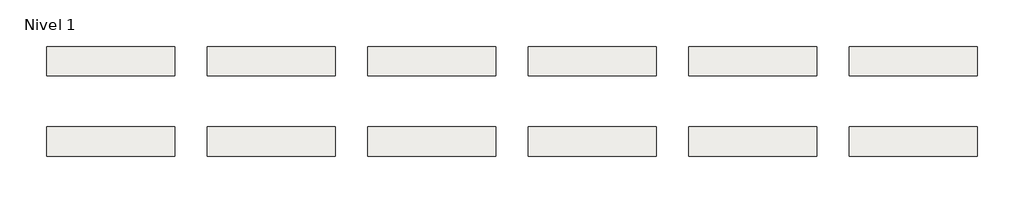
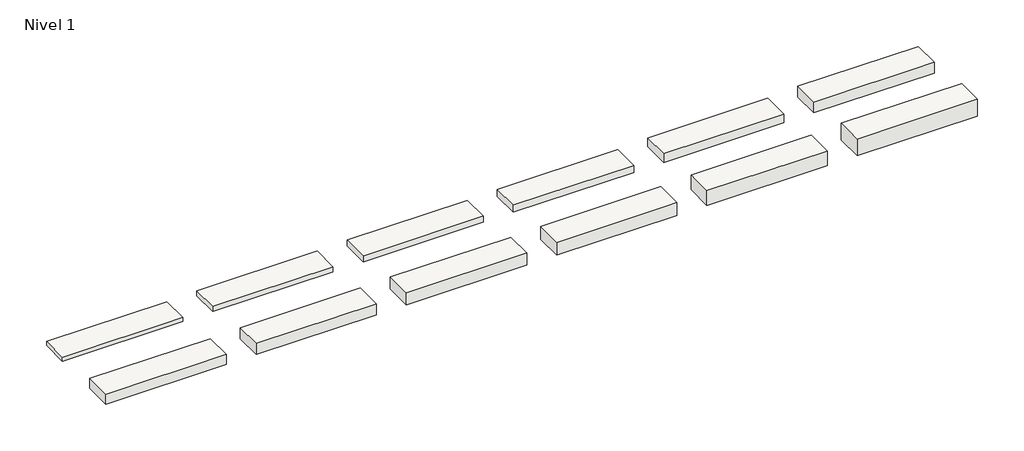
# One storey: 12 roofs.
"""IFC4 building model written with IfcOpenShell, lengths in millimetres."""

import ifcopenshell
import ifcopenshell.guid

model = None  # the IFC model being written
_history = None  # IfcOwnerHistory: only IFC2X3 demands one
_inside = {}  # id of a spatial element -> (the spatial element, [elements in it])
_under = {}  # id of a project, library or spatial element -> (it, [spatial elements below it])
_declared = {}  # id of a project -> (the project, [libraries it declares])
_typed = {}  # id of a type object -> (the type object, [elements of that type])
_made_of = {}  # id of a material, layer set ... -> (it, [elements and type objects made of it])


def new_model(schema):
    """Start an empty IFC model of exactly this schema.

    Asked for "IFC4X3", IfcOpenShell would pick the latest addendum, in which some entities
    have other attributes; the version numbers below select the first issue.
    IFC2X3 requires an IfcOwnerHistory on every rooted entity: one is made here for all.
    """
    global model, _history
    if schema == "IFC4X3":
        model = ifcopenshell.file(schema_version=(4, 3, 0, 0))
    else:
        model = ifcopenshell.file(schema=schema)
    _inside.clear()
    _under.clear()
    _declared.clear()
    _typed.clear()
    _made_of.clear()
    _history = None
    if model.schema == "IFC2X3":
        org = make("IfcOrganization", Name="unknown")
        user = make(
            "IfcPersonAndOrganization",
            ThePerson=make("IfcPerson", FamilyName="unknown"),
            TheOrganization=org,
        )
        app = make(
            "IfcApplication",
            ApplicationDeveloper=org,
            Version="unknown",
            ApplicationFullName="unknown",
            ApplicationIdentifier="unknown",
        )
        _history = make(
            "IfcOwnerHistory",
            OwningUser=user,
            OwningApplication=app,
            ChangeAction="ADDED",
            CreationDate=0,
        )
    return model


def make(cls, **values):
    """One entity of the class cls with the attributes given. An attribute that is None is left unset."""
    return model.create_entity(
        cls, **{name: value for name, value in values.items() if value is not None}
    )


def rooted(cls, **values):
    """An entity with a GlobalId (a new one), such as an element, a storey or a relation."""
    return make(cls, GlobalId=ifcopenshell.guid.new(), OwnerHistory=_history, **values)


def si_unit(unit_type, name, prefix=None):
    """IfcSIUnit, for example si_unit("LENGTHUNIT", "METRE", prefix="MILLI")."""
    return make("IfcSIUnit", UnitType=unit_type, Prefix=prefix, Name=name)


def assignment(units):
    """IfcUnitAssignment: the units of a project."""
    return None if units is None else make("IfcUnitAssignment", Units=units)


def point(xyz):
    """IfcCartesianPoint."""
    return None if xyz is None else make("IfcCartesianPoint", Coordinates=xyz)


def direction(xyz):
    """IfcDirection."""
    return None if xyz is None else make("IfcDirection", DirectionRatios=xyz)


def frame(location, z_axis=None, x_axis=None):
    """IfcAxis2Placement3D, a coordinate frame: its origin and axes. An axis left out is left unset."""
    return make(
        "IfcAxis2Placement3D",
        Location=point(location),
        Axis=direction(z_axis),
        RefDirection=direction(x_axis),
    )


def origin():
    """The frame at (0, 0, 0) with its axes left unset."""
    return frame((0.0, 0.0, 0.0))


def origin_with_axes():
    """The frame at (0, 0, 0) with the z axis (0, 0, 1) and the x axis (1, 0, 0) written out."""
    return frame((0.0, 0.0, 0.0), z_axis=(0.0, 0.0, 1.0), x_axis=(1.0, 0.0, 0.0))


def place(relative_to, where):
    """IfcLocalPlacement: puts the frame where relative to a parent placement (None: the world)."""
    return make(
        "IfcLocalPlacement", PlacementRelTo=relative_to, RelativePlacement=where
    )


def context(
    kind, dimensions, precision=None, world=None, true_north=None, identifier=None
):
    """IfcGeometricRepresentationContext, for example the 3D "Model" context."""
    return make(
        "IfcGeometricRepresentationContext",
        ContextIdentifier=identifier,
        ContextType=kind,
        CoordinateSpaceDimension=dimensions,
        Precision=precision,
        WorldCoordinateSystem=world,
        TrueNorth=true_north,
    )


def project(units=None, contexts=None):
    """IfcProject with its units and contexts."""
    return rooted(
        "IfcProject",
        Name="project",
        RepresentationContexts=contexts,
        UnitsInContext=assignment(units),
    )


def spatial(cls, under=None, at=None, **own):
    """A site, building, storey or space (cls), placed at a placement, below another one or the project."""
    s = rooted(cls, ObjectPlacement=at, **own)
    if under is not None:
        _under.setdefault(under.id(), (under, []))[1].append(s)
    return s


def polyline(points):
    """IfcPolyline through the points."""
    return make("IfcPolyline", Points=[point(p) for p in points])


def outline(outer, holes=None, kind="AREA"):
    """IfcArbitraryClosedProfileDef: a profile drawn as a closed curve; with holes, ...WithVoids."""
    if holes is None:
        return make("IfcArbitraryClosedProfileDef", ProfileType=kind, OuterCurve=outer)
    return make(
        "IfcArbitraryProfileDefWithVoids",
        ProfileType=kind,
        OuterCurve=outer,
        InnerCurves=holes,
    )


def extrude(swept, where, along, depth):
    """IfcExtrudedAreaSolid: the profile swept, set in the frame where, extruded along a direction by depth."""
    return make(
        "IfcExtrudedAreaSolid",
        SweptArea=swept,
        Position=where,
        ExtrudedDirection=direction(along),
        Depth=depth,
    )


def shape(context_of_items, identifier, shape_type, items):
    """IfcShapeRepresentation: the items that make up one representation, for example the "Body"."""
    return make(
        "IfcShapeRepresentation",
        ContextOfItems=context_of_items,
        RepresentationIdentifier=identifier,
        RepresentationType=shape_type,
        Items=items,
    )


def made_of(thing, what):
    """Note that an element or type object is made of a material, layer set ...; save() writes the relation."""
    if what is not None:
        _made_of.setdefault(what.id(), (what, []))[1].append(thing)
    return thing


def element(
    cls,
    number,
    at=None,
    inside=None,
    cuts=None,
    type_object=None,
    material=None,
    context=None,
    identifier="Body",
    shape_type=None,
    held_by="IfcProductDefinitionShape",
    body=None,
    shapes=None,
    **own,
):
    """One element of the class cls, such as IfcWall. Its Tag is "e" and its number.

    at: its placement. inside: the storey or other place that contains it. cuts: it is an
    opening in that element (IfcRelVoidsElement). A single representation is given by context,
    identifier, shape_type and body (its items); several are given by shapes. held_by: the class
    of the entity that holds the representations. save() writes the other relations.
    """
    e = rooted(cls, Tag="e%d" % number, ObjectPlacement=at, **own)
    if body is not None:
        shapes = [shape(context, identifier, shape_type, body)]
    if shapes is not None:
        e.Representation = make(held_by, Representations=shapes)
    if inside is not None:
        _inside.setdefault(inside.id(), (inside, []))[1].append(e)
    if cuts is not None:
        rooted(
            "IfcRelVoidsElement", RelatingBuildingElement=cuts, RelatedOpeningElement=e
        )
    if type_object is not None:
        _typed.setdefault(type_object.id(), (type_object, []))[1].append(e)
    return made_of(e, material)


def aggregate(whole, parts):
    """IfcRelAggregates: a whole, such as a stair, and the parts it consists of."""
    return rooted("IfcRelAggregates", RelatingObject=whole, RelatedObjects=parts)


def save(model, path):
    """Write the relations noted so far, then the file.

    IfcRelAggregates (storeys below a building ...), IfcRelContainedInSpatialStructure (elements
    in a storey), IfcRelDefinesByType, IfcRelAssociatesMaterial and IfcRelDeclares: one each for
    every whole, place, type object, material and project.
    """
    for whole, parts in _under.values():
        aggregate(whole, parts)
    for where, things in _inside.values():
        rooted(
            "IfcRelContainedInSpatialStructure",
            RelatedElements=things,
            RelatingStructure=where,
        )
    for kind, things in _typed.values():
        rooted("IfcRelDefinesByType", RelatedObjects=things, RelatingType=kind)
    for what, things in _made_of.values():
        rooted("IfcRelAssociatesMaterial", RelatedObjects=things, RelatingMaterial=what)
    for by, libraries in _declared.values():
        rooted("IfcRelDeclares", RelatingContext=by, RelatedDefinitions=libraries)
    model.write(path)


model = new_model("IFC4")

# Units and contexts
model_context = context("Model", 3, world=origin())
ifc_project = project(units=[si_unit("LENGTHUNIT", "METRE", prefix="MILLI")], contexts=[model_context])

# Site, building, storey
site = spatial("IfcSite", under=ifc_project)
building = spatial("IfcBuilding", under=site)
storey = spatial("IfcBuildingStorey", under=building, Name="Nivel 1", Elevation=0.0)

# Roofs
placement = place(None, origin())
element("IfcRoof", 1, ObjectType="Thermochip_ROOF_XPS 60mm", at=placement, inside=storey, context=model_context, shape_type="SweptSolid", body=[
    extrude(outline(polyline([(-1224.6699095, -5944.5376473), (1175.3300905, -5944.5376473), (1175.3300905, -6494.5376473), (-1224.6699095, -6494.5376473), (-1224.6699095, -5944.5376473)])), origin_with_axes(), (0.0, 0.0, 1.0), 85.0),
])
element("IfcRoof", 2, ObjectType="Thermochip_ROOF-COAT_XPS 60mm", at=placement, inside=storey, context=model_context, shape_type="SweptSolid", body=[
    extrude(outline(polyline([(-1224.6699095, -7444.5376473), (1175.3300905, -7444.5376473), (1175.3300905, -7994.5376473), (-1224.6699095, -7994.5376473), (-1224.6699095, -7444.5376473)])), origin_with_axes(), (0.0, 0.0, 1.0), 212.5),
])
element("IfcRoof", 3, ObjectType="Thermochip_ROOF_XPS 80mm", at=placement, inside=storey, context=model_context, shape_type="SweptSolid", body=[
    extrude(outline(polyline([(1775.3300905, -5944.5376473), (4175.3300905, -5944.5376473), (4175.3300905, -6494.5376473), (1775.3300905, -6494.5376473), (1775.3300905, -5944.5376473)])), origin_with_axes(), (0.0, 0.0, 1.0), 105.0),
])
element("IfcRoof", 4, ObjectType="Thermochip_ROOF_XPS 100mm", at=placement, inside=storey, context=model_context, shape_type="SweptSolid", body=[
    extrude(outline(polyline([(4775.3300905, -5944.5376473), (7175.3300905, -5944.5376473), (7175.3300905, -6494.5376473), (4775.3300905, -6494.5376473), (4775.3300905, -5944.5376473)])), origin_with_axes(), (0.0, 0.0, 1.0), 125.0),
])
element("IfcRoof", 5, ObjectType="Thermochip_ROOF_XPS 120mm", at=placement, inside=storey, context=model_context, shape_type="SweptSolid", body=[
    extrude(outline(polyline([(7775.3300905, -5944.5376473), (10175.3300905, -5944.5376473), (10175.3300905, -6494.5376473), (7775.3300905, -6494.5376473), (7775.3300905, -5944.5376473)])), origin_with_axes(), (0.0, 0.0, 1.0), 145.0),
])
element("IfcRoof", 6, ObjectType="Thermochip_ROOF-COAT_XPS 80mm", at=placement, inside=storey, context=model_context, shape_type="SweptSolid", body=[
    extrude(outline(polyline([(1775.3300905, -7444.5376473), (4175.3300905, -7444.5376473), (4175.3300905, -7994.5376473), (1775.3300905, -7994.5376473), (1775.3300905, -7444.5376473)])), origin_with_axes(), (0.0, 0.0, 1.0), 232.5),
])
element("IfcRoof", 7, ObjectType="Thermochip_ROOF-COAT_XPS 100mm", at=placement, inside=storey, context=model_context, shape_type="SweptSolid", body=[
    extrude(outline(polyline([(4775.3300905, -7444.5376473), (7175.3300905, -7444.5376473), (7175.3300905, -7994.5376473), (4775.3300905, -7994.5376473), (4775.3300905, -7444.5376473)])), origin_with_axes(), (0.0, 0.0, 1.0), 252.5),
])
element("IfcRoof", 8, ObjectType="Thermochip_ROOF-COAT_XPS 120mm", at=placement, inside=storey, context=model_context, shape_type="SweptSolid", body=[
    extrude(outline(polyline([(7775.3300905, -7444.5376473), (10175.3300905, -7444.5376473), (10175.3300905, -7994.5376473), (7775.3300905, -7994.5376473), (7775.3300905, -7444.5376473)])), origin_with_axes(), (0.0, 0.0, 1.0), 272.5),
])
element("IfcRoof", 9, ObjectType="Thermochip_ROOF-COAT_XPS 160mm", at=placement, inside=storey, context=model_context, shape_type="SweptSolid", body=[
    extrude(outline(polyline([(10775.3300905, -7444.5376473), (13175.3300905, -7444.5376473), (13175.3300905, -7994.5376473), (10775.3300905, -7994.5376473), (10775.3300905, -7444.5376473)])), origin_with_axes(), (0.0, 0.0, 1.0), 312.5),
])
element("IfcRoof", 10, ObjectType="Thermochip_ROOF-COAT_XPS 200mm", at=placement, inside=storey, context=model_context, shape_type="SweptSolid", body=[
    extrude(outline(polyline([(13775.3300905, -7444.5376473), (16175.3300905, -7444.5376473), (16175.3300905, -7994.5376473), (13775.3300905, -7994.5376473), (13775.3300905, -7444.5376473)])), origin_with_axes(), (0.0, 0.0, 1.0), 352.5),
])
element("IfcRoof", 11, ObjectType="Thermochip_ROOF_XPS 160mm", at=placement, inside=storey, context=model_context, shape_type="SweptSolid", body=[
    extrude(outline(polyline([(10775.3300905, -5944.5376473), (13175.3300905, -5944.5376473), (13175.3300905, -6494.5376473), (10775.3300905, -6494.5376473), (10775.3300905, -5944.5376473)])), origin_with_axes(), (0.0, 0.0, 1.0), 185.0),
])
element("IfcRoof", 12, ObjectType="Thermochip_ROOF_XPS 200mm", at=placement, inside=storey, context=model_context, shape_type="SweptSolid", body=[
    extrude(outline(polyline([(13775.3300905, -5944.5376473), (16175.3300905, -5944.5376473), (16175.3300905, -6494.5376473), (13775.3300905, -6494.5376473), (13775.3300905, -5944.5376473)])), origin_with_axes(), (0.0, 0.0, 1.0), 225.0),
])

save(model, "model.ifc")
